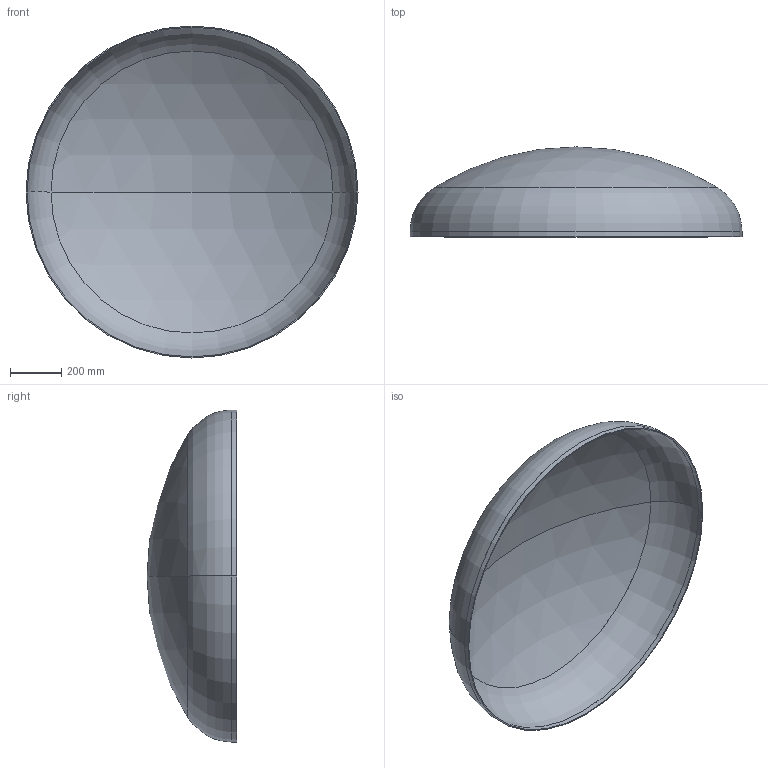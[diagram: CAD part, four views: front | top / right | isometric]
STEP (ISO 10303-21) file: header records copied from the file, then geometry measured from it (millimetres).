
FILE_DESCRIPTION (( 'STEP AP203' ), '1' );
FILE_NAME ('DIN 28013 Korbbogenform_-_Boden DIN 28013 - 1300 x 20 - I - s=4.step', '2016-07-01T09:40:58', ( '' ), ( '' ), 'SwSTEP 2.0', 'SolidWorks 2013', '' );
FILE_SCHEMA (( 'CONFIG_CONTROL_DESIGN' ));
Length unit declared in the file: millimetre
Products named in the file (1): DIN 28013 Korbbogenform_-_Boden DIN 28013 - 1300 x 20 - I - s=4
Bounding box: 1300 x 352.18 x 1300 mm (x, y, z)
Volume: 7648241.5 mm3; surface area: 3840438.7 mm2
Topology: 1 solids, 1 shells, 13 faces, 24 edges, 14 vertices
Faces by surface type: torus 4, cylinder 4, sphere 4, plane 1
Entity records: 407 total; most frequent: DIRECTION 72, CARTESIAN_POINT 52, ORIENTED_EDGE 48, AXIS2_PLACEMENT_3D 34, EDGE_CURVE 24, CIRCLE 20, VERTEX_POINT 14, EDGE_LOOP 14
